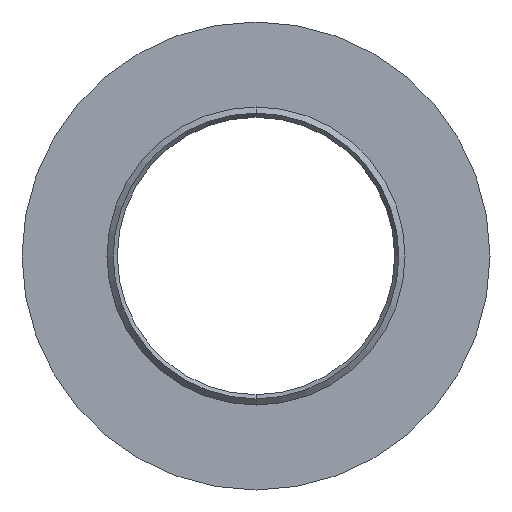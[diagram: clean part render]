
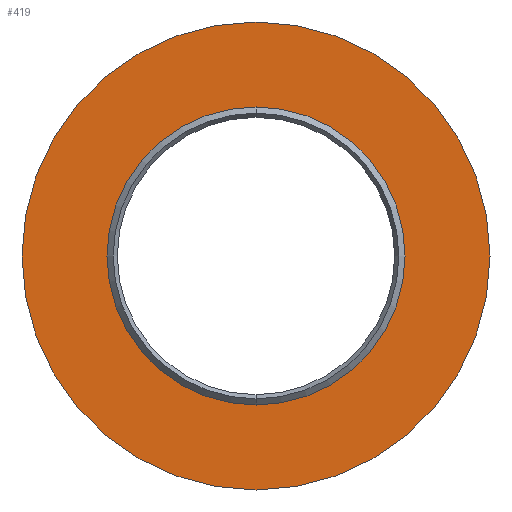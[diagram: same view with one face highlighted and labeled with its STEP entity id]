
A CAD part, front view. The second image highlights one B-rep face of the part: STEP entity #419.
In plain terms, the highlighted planar face has unit normal (0, -1, 0).
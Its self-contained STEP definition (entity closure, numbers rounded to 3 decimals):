
#9 = VERTEX_POINT ( 'NONE', #159 ) ;
#10 = CIRCLE ( 'NONE', #291, 13.5 ) ;
#15 = CARTESIAN_POINT ( 'NONE',  ( 0., -6., 13.5 ) ) ;
#19 = DIRECTION ( 'NONE',  ( 0., 0., -1. ) ) ;
#28 = CARTESIAN_POINT ( 'NONE',  ( 0., -6., -13.5 ) ) ;
#58 = DIRECTION ( 'NONE',  ( 0., 0., 1. ) ) ;
#68 = AXIS2_PLACEMENT_3D ( 'NONE', #366, #333, #223 ) ;
#75 = EDGE_CURVE ( 'NONE', #141, #393, #224, .T. ) ;
#93 = ORIENTED_EDGE ( 'NONE', *, *, #176, .T. ) ;
#134 = PLANE ( 'NONE',  #305 ) ;
#138 = EDGE_CURVE ( 'NONE', #393, #141, #10, .T. ) ;
#141 = VERTEX_POINT ( 'NONE', #28 ) ;
#150 = CARTESIAN_POINT ( 'NONE',  ( 0., -6., 0. ) ) ;
#153 = EDGE_LOOP ( 'NONE', ( #93, #485 ) ) ;
#155 = FACE_BOUND ( 'NONE', #153, .T. ) ;
#159 = CARTESIAN_POINT ( 'NONE',  ( 0., -6., -8.6 ) ) ;
#167 = DIRECTION ( 'NONE',  ( 0., 1., 0. ) ) ;
#176 = EDGE_CURVE ( 'NONE', #201, #9, #479, .T. ) ;
#185 = DIRECTION ( 'NONE',  ( 0., 1., 0. ) ) ;
#187 = DIRECTION ( 'NONE',  ( 0., 0., 1. ) ) ;
#201 = VERTEX_POINT ( 'NONE', #269 ) ;
#223 = DIRECTION ( 'NONE',  ( 0., 0., -1. ) ) ;
#224 = CIRCLE ( 'NONE', #68, 13.5 ) ;
#228 = ORIENTED_EDGE ( 'NONE', *, *, #75, .T. ) ;
#240 = AXIS2_PLACEMENT_3D ( 'NONE', #423, #167, #381 ) ;
#256 = DIRECTION ( 'NONE',  ( 0., -1., 0. ) ) ;
#269 = CARTESIAN_POINT ( 'NONE',  ( 0., -6., 8.6 ) ) ;
#290 = DIRECTION ( 'NONE',  ( 0., 1., 0. ) ) ;
#291 = AXIS2_PLACEMENT_3D ( 'NONE', #337, #256, #19 ) ;
#305 = AXIS2_PLACEMENT_3D ( 'NONE', #359, #290, #58 ) ;
#318 = EDGE_CURVE ( 'NONE', #9, #201, #467, .T. ) ;
#333 = DIRECTION ( 'NONE',  ( 0., -1., 0. ) ) ;
#337 = CARTESIAN_POINT ( 'NONE',  ( 0., -6., 0. ) ) ;
#359 = CARTESIAN_POINT ( 'NONE',  ( -8.1, -6., 0. ) ) ;
#360 = AXIS2_PLACEMENT_3D ( 'NONE', #150, #185, #187 ) ;
#366 = CARTESIAN_POINT ( 'NONE',  ( 0., -6., 0. ) ) ;
#381 = DIRECTION ( 'NONE',  ( 0., 0., 1. ) ) ;
#393 = VERTEX_POINT ( 'NONE', #15 ) ;
#413 = ORIENTED_EDGE ( 'NONE', *, *, #138, .T. ) ;
#419 = ADVANCED_FACE ( 'NONE', ( #155, #448 ), #134, .F. ) ;
#423 = CARTESIAN_POINT ( 'NONE',  ( 0., -6., 0. ) ) ;
#441 = EDGE_LOOP ( 'NONE', ( #228, #413 ) ) ;
#448 = FACE_OUTER_BOUND ( 'NONE', #441, .T. ) ;
#467 = CIRCLE ( 'NONE', #240, 8.6 ) ;
#479 = CIRCLE ( 'NONE', #360, 8.6 ) ;
#485 = ORIENTED_EDGE ( 'NONE', *, *, #318, .T. ) ;
